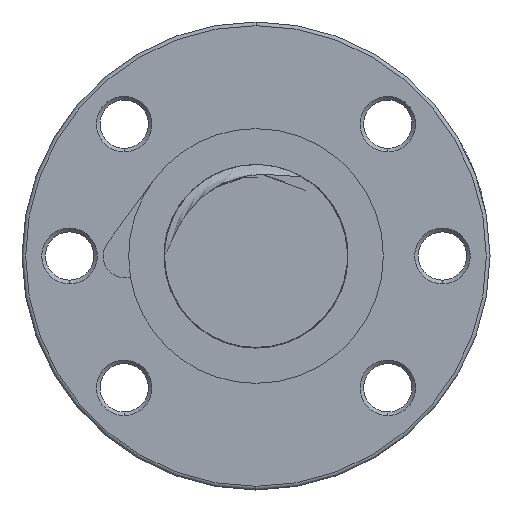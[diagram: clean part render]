
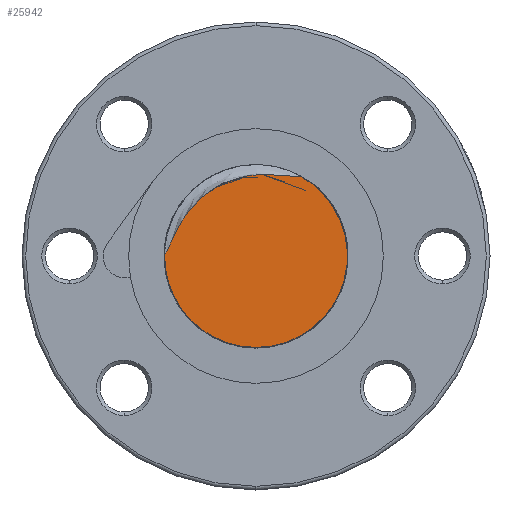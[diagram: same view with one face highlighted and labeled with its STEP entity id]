
A CAD part, left-side view. The second image highlights one B-rep face of the part: STEP entity #25942.
In plain terms, the highlighted planar face has unit normal (-1, 0, 0).
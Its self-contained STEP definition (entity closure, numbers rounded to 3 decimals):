
#16219 = DIRECTION ( 'NONE',  ( 0., 1., 0. ) ) ;
#16220 = DIRECTION ( 'NONE',  ( 1., 0., 0. ) ) ;
#16221 = CARTESIAN_POINT ( 'NONE',  ( -202., 0., 0. ) ) ;
#16222 = AXIS2_PLACEMENT_3D ( 'NONE', #16221, #16220, #16219 ) ;
#16223 = CIRCLE ( 'NONE', #16222, 12.5 ) ;
#16225 = CARTESIAN_POINT ( 'NONE',  ( -202., 0., -12.5 ) ) ;
#16350 = CARTESIAN_POINT ( 'NONE',  ( -202., 12.499, 0.16 ) ) ;
#17045 = CARTESIAN_POINT ( 'NONE',  ( -202., -6.114, 10.903 ) ) ;
#17424 = DIRECTION ( 'NONE',  ( 0., 1., 0. ) ) ;
#17425 = DIRECTION ( 'NONE',  ( 1., 0., 0. ) ) ;
#17426 = AXIS2_PLACEMENT_3D ( 'NONE', #17433, #17425, #17424 ) ;
#17427 = CIRCLE ( 'NONE', #17426, 12.5 ) ;
#17433 = CARTESIAN_POINT ( 'NONE',  ( -202., 0., 0. ) ) ;
#17830 = CARTESIAN_POINT ( 'NONE',  ( -202., 4.563, 9.911 ) ) ;
#17831 = CARTESIAN_POINT ( 'NONE',  ( -202., 3.658, 10.303 ) ) ;
#17832 = CARTESIAN_POINT ( 'NONE',  ( -202., 2.24, 10.734 ) ) ;
#17833 = CARTESIAN_POINT ( 'NONE',  ( -202., 1.755, 10.852 ) ) ;
#17834 = CARTESIAN_POINT ( 'NONE',  ( -202., 0.776, 11.037 ) ) ;
#17835 = CARTESIAN_POINT ( 'NONE',  ( -202., 0.286, 11.102 ) ) ;
#17836 = CARTESIAN_POINT ( 'NONE',  ( -202., -1.186, 11.226 ) ) ;
#17837 = CARTESIAN_POINT ( 'NONE',  ( -202., -2.169, 11.209 ) ) ;
#17838 = CARTESIAN_POINT ( 'NONE',  ( -202., -3.646, 11.079 ) ) ;
#17839 = CARTESIAN_POINT ( 'NONE',  ( -202., -4.138, 11.018 ) ) ;
#17840 = CARTESIAN_POINT ( 'NONE',  ( -202., -4.877, 10.931 ) ) ;
#17841 = CARTESIAN_POINT ( 'NONE',  ( -202., -5.123, 10.903 ) ) ;
#17842 = CARTESIAN_POINT ( 'NONE',  ( -202., -5.494, 10.877 ) ) ;
#17843 = CARTESIAN_POINT ( 'NONE',  ( -202., -5.618, 10.871 ) ) ;
#17844 = CARTESIAN_POINT ( 'NONE',  ( -202., -5.867, 10.872 ) ) ;
#17845 = CARTESIAN_POINT ( 'NONE',  ( -202., -5.992, 10.878 ) ) ;
#17846 = CARTESIAN_POINT ( 'NONE',  ( -202., -6.114, 10.903 ) ) ;
#17847 = B_SPLINE_CURVE_WITH_KNOTS ( 'NONE', 3,
 ( #17846, #17845, #17844, #17843, #17842, #17841, #17840, #17839, #17838, #17837, #17836, #17835, #17834, #17833, #17832, #17831, #17830, #18001, #18000, #17999, #17998, #17997, #17996, #17995, #17994, #17993, #17992, #17991, #17990, #17989, #17988, #17987, #17986, #17985, #17984, #17983 ),
 .UNSPECIFIED., .F., .F.,
 ( 4, 2, 2, 2, 2, 2, 2, 2, 2, 2, 2, 2, 2, 2, 2, 2, 2, 4 ),
 ( 0.002, 0.003, 0.003, 0.004, 0.005, 0.008, 0.01, 0.011, 0.014, 0.016, 0.017, 0.019, 0.02, 0.023, 0.025, 0.025, 0.026, 0.026 ),
 .UNSPECIFIED. ) ;
#17983 = CARTESIAN_POINT ( 'NONE',  ( -202., 12.499, 0.16 ) ) ;
#17984 = CARTESIAN_POINT ( 'NONE',  ( -202., 12.417, 0.254 ) ) ;
#17985 = CARTESIAN_POINT ( 'NONE',  ( -202., 12.35, 0.358 ) ) ;
#17986 = CARTESIAN_POINT ( 'NONE',  ( -202., 12.225, 0.572 ) ) ;
#17987 = CARTESIAN_POINT ( 'NONE',  ( -202., 12.168, 0.682 ) ) ;
#17988 = CARTESIAN_POINT ( 'NONE',  ( -202., 12.005, 1.016 ) ) ;
#17989 = CARTESIAN_POINT ( 'NONE',  ( -202., 11.906, 1.243 ) ) ;
#17990 = CARTESIAN_POINT ( 'NONE',  ( -202., 11.61, 1.925 ) ) ;
#17991 = CARTESIAN_POINT ( 'NONE',  ( -202., 11.416, 2.381 ) ) ;
#17992 = CARTESIAN_POINT ( 'NONE',  ( -202., 10.788, 3.723 ) ) ;
#17993 = CARTESIAN_POINT ( 'NONE',  ( -202., 10.315, 4.587 ) ) ;
#17994 = CARTESIAN_POINT ( 'NONE',  ( -202., 9.471, 5.805 ) ) ;
#17995 = CARTESIAN_POINT ( 'NONE',  ( -202., 9.167, 6.2 ) ) ;
#17996 = CARTESIAN_POINT ( 'NONE',  ( -202., 8.515, 6.955 ) ) ;
#17997 = CARTESIAN_POINT ( 'NONE',  ( -202., 8.171, 7.311 ) ) ;
#17998 = CARTESIAN_POINT ( 'NONE',  ( -202., 7.448, 7.983 ) ) ;
#17999 = CARTESIAN_POINT ( 'NONE',  ( -202., 7.069, 8.298 ) ) ;
#18000 = CARTESIAN_POINT ( 'NONE',  ( -202., 6.275, 8.887 ) ) ;
#18001 = CARTESIAN_POINT ( 'NONE',  ( -202., 5.858, 9.161 ) ) ;
#18909 = DIRECTION ( 'NONE',  ( 0., 0., -1. ) ) ;
#18910 = DIRECTION ( 'NONE',  ( 1., 0., 0. ) ) ;
#18911 = CARTESIAN_POINT ( 'NONE',  ( -202., 0., 0. ) ) ;
#18912 = AXIS2_PLACEMENT_3D ( 'NONE', #18911, #18910, #18909 ) ;
#18913 = PLANE ( 'NONE',  #18912 ) ;
#18919 = FACE_OUTER_BOUND ( 'NONE', #25943, .T. ) ;
#25691 = VERTEX_POINT ( 'NONE', #16350 ) ;
#25700 = VERTEX_POINT ( 'NONE', #16225 ) ;
#25702 = EDGE_CURVE ( 'NONE', #25700, #25691, #16223, .T. ) ;
#25745 = VERTEX_POINT ( 'NONE', #17045 ) ;
#25772 = EDGE_CURVE ( 'NONE', #25745, #25700, #17427, .T. ) ;
#25855 = EDGE_CURVE ( 'NONE', #25745, #25691, #17847, .T. ) ;
#25856 = ORIENTED_EDGE ( 'NONE', *, *, #25702, .F. ) ;
#25942 = ADVANCED_FACE ( 'NONE', ( #18919 ), #18913, .F. ) ;
#25943 = EDGE_LOOP ( 'NONE', ( #25945, #25946, #25856 ) ) ;
#25945 = ORIENTED_EDGE ( 'NONE', *, *, #25772, .F. ) ;
#25946 = ORIENTED_EDGE ( 'NONE', *, *, #25855, .T. ) ;
